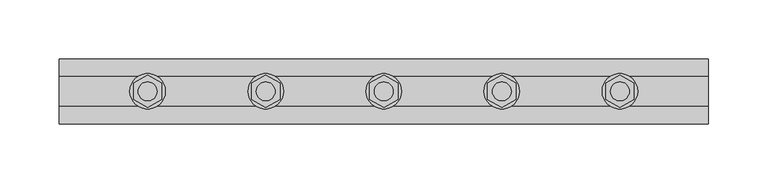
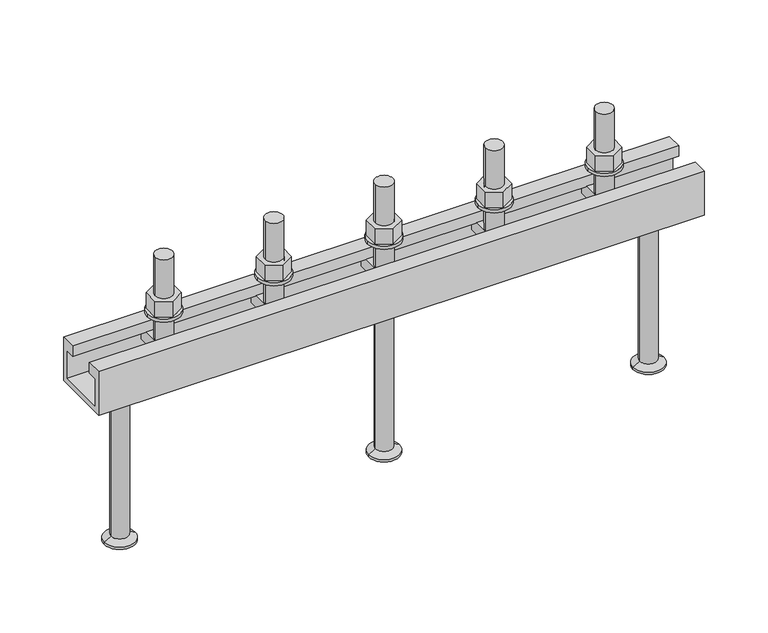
"""IFC4 building model written with IfcOpenShell, lengths in millimetres: fastener geometry, JTA-W JORDAHL® AnchorChannels : JTA-W L=550 mm."""

from ifc_helpers import new_model, si_unit, point, frame, frame_2d, origin, place, context, project, spatial, polyline, circle_curve, trimmed, segment, composite_curve, outline, extrude, source, transform, mapped, element, save
from ifc_brep_helpers import plane_surface, cylinder_surface, revolved_surface, advanced_brep


def fastener_0ec726aa(model_context):
    return source(origin(), model_context, "Body", "SolidModel", [
        extrude(outline(polyline([(375.0, -13.8564065), (363.0, -6.9282032), (363.0, 6.9282032), (375.0, 13.8564065), (387.0, 6.9282032), (387.0, -6.9282032), (375.0, -13.8564065)]), holes=[composite_curve([segment(trimmed(circle_curve(frame_2d((375.0, 0.0)), 8.0), [point((367.0, 0.0))], [point((383.0, 0.0))], True, "CARTESIAN"), True, "CONTINUOUS"), segment(trimmed(circle_curve(frame_2d((375.0, 0.0)), 8.0), [point((383.0, 0.0))], [point((367.0, 0.0))], True, "CARTESIAN"), True, "CONTINUOUS")], self_intersect=False)]), frame((0.0, 0.0, 18.0), z_axis=(0.0, 0.0, 1.0), x_axis=(1.0, 0.0, 0.0)), (0.0, 0.0, 1.0), 14.8),
        extrude(outline(composite_curve([segment(trimmed(circle_curve(frame_2d((375.0, 0.0)), 15.0), [point((360.0, 0.0))], [point((390.0, 0.0))], False, "CARTESIAN"), True, "CONTINUOUS"), segment(trimmed(circle_curve(frame_2d((375.0, 0.0)), 15.0), [point((390.0, 0.0))], [point((360.0, 0.0))], False, "CARTESIAN"), True, "CONTINUOUS")], self_intersect=False), holes=[composite_curve([segment(trimmed(circle_curve(frame_2d((375.0, 0.0)), 8.5), [point((366.5, 0.0))], [point((383.5, 0.0))], True, "CARTESIAN"), True, "CONTINUOUS"), segment(trimmed(circle_curve(frame_2d((375.0, 0.0)), 8.5), [point((383.5, 0.0))], [point((366.5, 0.0))], True, "CARTESIAN"), True, "CONTINUOUS")], self_intersect=False)]), frame((0.0, 0.0, 15.0), z_axis=(0.0, 0.0, 1.0), x_axis=(1.0, 0.0, 0.0)), (0.0, 0.0, 1.0), 3.0),
        extrude(outline(polyline([(275.0, -13.8564065), (263.0, -6.9282032), (263.0, 6.9282032), (275.0, 13.8564065), (287.0, 6.9282032), (287.0, -6.9282032), (275.0, -13.8564065)]), holes=[composite_curve([segment(trimmed(circle_curve(frame_2d((275.0, 0.0)), 8.0), [point((267.0, 0.0))], [point((283.0, 0.0))], True, "CARTESIAN"), True, "CONTINUOUS"), segment(trimmed(circle_curve(frame_2d((275.0, 0.0)), 8.0), [point((283.0, 0.0))], [point((267.0, 0.0))], True, "CARTESIAN"), True, "CONTINUOUS")], self_intersect=False)]), frame((0.0, 0.0, 18.0), z_axis=(0.0, 0.0, 1.0), x_axis=(1.0, 0.0, 0.0)), (0.0, 0.0, 1.0), 14.8),
        extrude(outline(composite_curve([segment(trimmed(circle_curve(frame_2d((275.0, 0.0)), 15.0), [point((260.0, 0.0))], [point((290.0, 0.0))], False, "CARTESIAN"), True, "CONTINUOUS"), segment(trimmed(circle_curve(frame_2d((275.0, 0.0)), 15.0), [point((290.0, 0.0))], [point((260.0, 0.0))], False, "CARTESIAN"), True, "CONTINUOUS")], self_intersect=False), holes=[composite_curve([segment(trimmed(circle_curve(frame_2d((275.0, 0.0)), 8.5), [point((266.5, 0.0))], [point((283.5, 0.0))], True, "CARTESIAN"), True, "CONTINUOUS"), segment(trimmed(circle_curve(frame_2d((275.0, 0.0)), 8.5), [point((283.5, 0.0))], [point((266.5, 0.0))], True, "CARTESIAN"), True, "CONTINUOUS")], self_intersect=False)]), frame((0.0, 0.0, 15.0), z_axis=(0.0, 0.0, 1.0), x_axis=(1.0, 0.0, 0.0)), (0.0, 0.0, 1.0), 3.0),
        extrude(outline(polyline([(175.0, -13.8564065), (163.0, -6.9282032), (163.0, 6.9282032), (175.0, 13.8564065), (187.0, 6.9282032), (187.0, -6.9282032), (175.0, -13.8564065)]), holes=[composite_curve([segment(trimmed(circle_curve(frame_2d((175.0, 0.0)), 8.0), [point((167.0, 0.0))], [point((183.0, 0.0))], True, "CARTESIAN"), True, "CONTINUOUS"), segment(trimmed(circle_curve(frame_2d((175.0, 0.0)), 8.0), [point((183.0, 0.0))], [point((167.0, 0.0))], True, "CARTESIAN"), True, "CONTINUOUS")], self_intersect=False)]), frame((0.0, 0.0, 18.0), z_axis=(0.0, 0.0, 1.0), x_axis=(1.0, 0.0, 0.0)), (0.0, 0.0, 1.0), 14.8),
        extrude(outline(composite_curve([segment(trimmed(circle_curve(frame_2d((175.0, 0.0)), 15.0), [point((160.0, 0.0))], [point((190.0, 0.0))], False, "CARTESIAN"), True, "CONTINUOUS"), segment(trimmed(circle_curve(frame_2d((175.0, 0.0)), 15.0), [point((190.0, 0.0))], [point((160.0, 0.0))], False, "CARTESIAN"), True, "CONTINUOUS")], self_intersect=False), holes=[composite_curve([segment(trimmed(circle_curve(frame_2d((175.0, 0.0)), 8.5), [point((166.5, 0.0))], [point((183.5, 0.0))], True, "CARTESIAN"), True, "CONTINUOUS"), segment(trimmed(circle_curve(frame_2d((175.0, 0.0)), 8.5), [point((183.5, 0.0))], [point((166.5, 0.0))], True, "CARTESIAN"), True, "CONTINUOUS")], self_intersect=False)]), frame((0.0, 0.0, 15.0), z_axis=(0.0, 0.0, 1.0), x_axis=(1.0, 0.0, 0.0)), (0.0, 0.0, 1.0), 3.0),
        advanced_brep(
        [(383.5, -20.7, -10.0), (383.5, -20.7, -21.0), (383.5, 20.7, -21.0), (383.5, 20.7, -10.0), (366.5, -20.7, -10.0), (366.5, 20.7, -10.0), (366.5, 20.7, -21.0), (366.5, -20.7, -21.0), (383.0, 0.0, -10.0), (367.0, 0.0, -10.0), (367.0, 0.0, 70.0), (383.0, 0.0, 70.0)],
        [
            (0, 1),
            (1, 2),
            (2, 3),
            (3, 0),
            (4, 5),
            (5, 6),
            (6, 7),
            (7, 4),
            (3, 5),
            (4, 0),
            (8, 9, circle_curve(frame((375.0, 0.0, -10.0), z_axis=(0.0, 0.0, -1.0), x_axis=(1.0, 0.0, 0.0)), 8.0)),
            (9, 8, circle_curve(frame((375.0, 0.0, -10.0), z_axis=(0.0, 0.0, -1.0), x_axis=(1.0, 0.0, 0.0)), 8.0)),
            (2, 6),
            (1, 7),
            (10, 11, circle_curve(frame((375.0, 0.0, 70.0), z_axis=(0.0, 0.0, 1.0), x_axis=(1.0, 0.0, 0.0)), 8.0)),
            (11, 10, circle_curve(frame((375.0, 0.0, 70.0), z_axis=(0.0, 0.0, 1.0), x_axis=(1.0, 0.0, 0.0)), 8.0)),
            (11, 8),
            (9, 10),
        ],
        [
            plane_surface(frame((383.5, 20.7, -10.0), z_axis=(1.0, 0.0, 0.0), x_axis=(0.0, 1.0, 0.0))),
            plane_surface(frame((366.5, 20.7, -10.0), z_axis=(-1.0, 0.0, 0.0), x_axis=(0.0, -1.0, 0.0))),
            plane_surface(frame((383.5, -20.7, -10.0), z_axis=(0.0, 0.0, 1.0), x_axis=(-1.0, 0.0, 0.0))),
            plane_surface(frame((383.5, 20.7, -10.0), z_axis=(0.0, 1.0, 0.0), x_axis=(-1.0, 0.0, 0.0))),
            plane_surface(frame((383.5, 20.7, -21.0), z_axis=(0.0, 0.0, -1.0), x_axis=(-1.0, 0.0, 0.0))),
            plane_surface(frame((383.5, -20.7, -21.0), z_axis=(0.0, -1.0, 0.0), x_axis=(-1.0, 0.0, 0.0))),
            plane_surface(frame((383.0, 0.0, 70.0), z_axis=(0.0, 0.0, 1.0), x_axis=(0.0, -1.0, 0.0))),
            cylinder_surface(frame((375.0, 0.0, -10.0), z_axis=(0.0, 0.0, 1.0), x_axis=(1.0, 0.0, 0.0)), 8.0),
        ],
        [
            (0, [[1, 2, 3, 4]]),
            (1, [[5, 6, 7, 8]]),
            (2, [[9, -5, 10, -4], [11, 12]]),
            (3, [[13, -6, -9, -3]]),
            (4, [[14, -7, -13, -2]]),
            (5, [[-10, -8, -14, -1]]),
            (6, [[15, 16]]),
            (7, [[17, -12, 18, -16]]),
            (7, [[-18, -11, -17, -15]]),
        ],
    ),
        advanced_brep(
        [(283.5, -20.7, -10.0), (283.5, -20.7, -21.0), (283.5, 20.7, -21.0), (283.5, 20.7, -10.0), (266.5, -20.7, -10.0), (266.5, 20.7, -10.0), (266.5, 20.7, -21.0), (266.5, -20.7, -21.0), (283.0, 0.0, -10.0), (267.0, 0.0, -10.0), (267.0, 0.0, 70.0), (283.0, 0.0, 70.0)],
        [
            (0, 1),
            (1, 2),
            (2, 3),
            (3, 0),
            (4, 5),
            (5, 6),
            (6, 7),
            (7, 4),
            (3, 5),
            (4, 0),
            (8, 9, circle_curve(frame((275.0, 0.0, -10.0), z_axis=(0.0, 0.0, -1.0), x_axis=(1.0, 0.0, 0.0)), 8.0)),
            (9, 8, circle_curve(frame((275.0, 0.0, -10.0), z_axis=(0.0, 0.0, -1.0), x_axis=(1.0, 0.0, 0.0)), 8.0)),
            (2, 6),
            (1, 7),
            (10, 11, circle_curve(frame((275.0, 0.0, 70.0), z_axis=(0.0, 0.0, 1.0), x_axis=(1.0, 0.0, 0.0)), 8.0)),
            (11, 10, circle_curve(frame((275.0, 0.0, 70.0), z_axis=(0.0, 0.0, 1.0), x_axis=(1.0, 0.0, 0.0)), 8.0)),
            (11, 8),
            (9, 10),
        ],
        [
            plane_surface(frame((283.5, 20.7, -10.0), z_axis=(1.0, 0.0, 0.0), x_axis=(0.0, 1.0, 0.0))),
            plane_surface(frame((266.5, 20.7, -10.0), z_axis=(-1.0, 0.0, 0.0), x_axis=(0.0, -1.0, 0.0))),
            plane_surface(frame((283.5, -20.7, -10.0), z_axis=(0.0, 0.0, 1.0), x_axis=(-1.0, 0.0, 0.0))),
            plane_surface(frame((283.5, 20.7, -10.0), z_axis=(0.0, 1.0, 0.0), x_axis=(-1.0, 0.0, 0.0))),
            plane_surface(frame((283.5, 20.7, -21.0), z_axis=(0.0, 0.0, -1.0), x_axis=(-1.0, 0.0, 0.0))),
            plane_surface(frame((283.5, -20.7, -21.0), z_axis=(0.0, -1.0, 0.0), x_axis=(-1.0, 0.0, 0.0))),
            plane_surface(frame((283.0, 0.0, 70.0), z_axis=(0.0, 0.0, 1.0), x_axis=(0.0, -1.0, 0.0))),
            cylinder_surface(frame((275.0, 0.0, -10.0), z_axis=(0.0, 0.0, 1.0), x_axis=(1.0, 0.0, 0.0)), 8.0),
        ],
        [
            (0, [[1, 2, 3, 4]]),
            (1, [[5, 6, 7, 8]]),
            (2, [[9, -5, 10, -4], [11, 12]]),
            (3, [[13, -6, -9, -3]]),
            (4, [[14, -7, -13, -2]]),
            (5, [[-10, -8, -14, -1]]),
            (6, [[15, 16]]),
            (7, [[17, -12, 18, -16]]),
            (7, [[-18, -11, -17, -15]]),
        ],
    ),
        advanced_brep(
        [(183.5, -20.7, -10.0), (183.5, -20.7, -21.0), (183.5, 20.7, -21.0), (183.5, 20.7, -10.0), (166.5, -20.7, -10.0), (166.5, 20.7, -10.0), (166.5, 20.7, -21.0), (166.5, -20.7, -21.0), (183.0, 0.0, -10.0), (167.0, 0.0, -10.0), (167.0, 0.0, 70.0), (183.0, 0.0, 70.0)],
        [
            (0, 1),
            (1, 2),
            (2, 3),
            (3, 0),
            (4, 5),
            (5, 6),
            (6, 7),
            (7, 4),
            (3, 5),
            (4, 0),
            (8, 9, circle_curve(frame((175.0, 0.0, -10.0), z_axis=(0.0, 0.0, -1.0), x_axis=(1.0, 0.0, 0.0)), 8.0)),
            (9, 8, circle_curve(frame((175.0, 0.0, -10.0), z_axis=(0.0, 0.0, -1.0), x_axis=(1.0, 0.0, 0.0)), 8.0)),
            (2, 6),
            (1, 7),
            (10, 11, circle_curve(frame((175.0, 0.0, 70.0), z_axis=(0.0, 0.0, 1.0), x_axis=(1.0, 0.0, 0.0)), 8.0)),
            (11, 10, circle_curve(frame((175.0, 0.0, 70.0), z_axis=(0.0, 0.0, 1.0), x_axis=(1.0, 0.0, 0.0)), 8.0)),
            (11, 8),
            (9, 10),
        ],
        [
            plane_surface(frame((183.5, 20.7, -10.0), z_axis=(1.0, 0.0, 0.0), x_axis=(0.0, 1.0, 0.0))),
            plane_surface(frame((166.5, 20.7, -10.0), z_axis=(-1.0, 0.0, 0.0), x_axis=(0.0, -1.0, 0.0))),
            plane_surface(frame((183.5, -20.7, -10.0), z_axis=(0.0, 0.0, 1.0), x_axis=(-1.0, 0.0, 0.0))),
            plane_surface(frame((183.5, 20.7, -10.0), z_axis=(0.0, 1.0, 0.0), x_axis=(-1.0, 0.0, 0.0))),
            plane_surface(frame((183.5, 20.7, -21.0), z_axis=(0.0, 0.0, -1.0), x_axis=(-1.0, 0.0, 0.0))),
            plane_surface(frame((183.5, -20.7, -21.0), z_axis=(0.0, -1.0, 0.0), x_axis=(-1.0, 0.0, 0.0))),
            plane_surface(frame((183.0, 0.0, 70.0), z_axis=(0.0, 0.0, 1.0), x_axis=(0.0, -1.0, 0.0))),
            cylinder_surface(frame((175.0, 0.0, -10.0), z_axis=(0.0, 0.0, 1.0), x_axis=(1.0, 0.0, 0.0)), 8.0),
        ],
        [
            (0, [[1, 2, 3, 4]]),
            (1, [[5, 6, 7, 8]]),
            (2, [[9, -5, 10, -4], [11, 12]]),
            (3, [[13, -6, -9, -3]]),
            (4, [[14, -7, -13, -2]]),
            (5, [[-10, -8, -14, -1]]),
            (6, [[15, 16]]),
            (7, [[17, -12, 18, -16]]),
            (7, [[-18, -11, -17, -15]]),
        ],
    ),
        advanced_brep(
        [(275.0, 0.0, -42.0), (252.0, 0.0, -42.0), (298.0, 0.0, -42.0), (261.0, 0.0, -190.0), (275.0, 0.0, -190.0), (289.0, 0.0, -190.0), (261.0, 0.0, -188.0), (289.0, 0.0, -188.0), (267.2, 0.0, -184.4204283), (282.8, 0.0, -184.4204283), (267.2, 0.0, -46.0), (282.8, 0.0, -46.0)],
        [
            (0, 1),
            (1, 2, circle_curve(frame((275.0, 0.0, -42.0), z_axis=(0.0, 0.0, 1.0), x_axis=(1.0, 0.0, 0.0)), 23.0)),
            (2, 0),
            (2, 1, circle_curve(frame((275.0, 0.0, -42.0), z_axis=(0.0, 0.0, 1.0), x_axis=(1.0, 0.0, 0.0)), 23.0)),
            (3, 4),
            (4, 5),
            (5, 3, circle_curve(frame((275.0, 0.0, -190.0), z_axis=(0.0, 0.0, -1.0), x_axis=(1.0, 0.0, 0.0)), 14.0)),
            (3, 5, circle_curve(frame((275.0, 0.0, -190.0), z_axis=(0.0, 0.0, -1.0), x_axis=(1.0, 0.0, 0.0)), 14.0)),
            (6, 3),
            (5, 7),
            (7, 6, circle_curve(frame((275.0, 0.0, -188.0), z_axis=(0.0, 0.0, -1.0), x_axis=(1.0, 0.0, 0.0)), 14.0)),
            (6, 7, circle_curve(frame((275.0, 0.0, -188.0), z_axis=(0.0, 0.0, -1.0), x_axis=(1.0, 0.0, 0.0)), 14.0)),
            (8, 6),
            (7, 9),
            (9, 8, circle_curve(frame((275.0, 0.0, -184.4204283), z_axis=(0.0, 0.0, -1.0), x_axis=(1.0, 0.0, 0.0)), 7.8)),
            (8, 9, circle_curve(frame((275.0, 0.0, -184.4204283), z_axis=(0.0, 0.0, -1.0), x_axis=(1.0, 0.0, 0.0)), 7.8)),
            (10, 8),
            (9, 11),
            (11, 10, circle_curve(frame((275.0, 0.0, -46.0), z_axis=(0.0, 0.0, -1.0), x_axis=(1.0, 0.0, 0.0)), 7.8)),
            (10, 11, circle_curve(frame((275.0, 0.0, -46.0), z_axis=(0.0, 0.0, -1.0), x_axis=(1.0, 0.0, 0.0)), 7.8)),
            (1, 10),
            (11, 2),
        ],
        [
            plane_surface(frame((275.0, 0.0, -42.0), z_axis=(0.0, 0.0, 1.0), x_axis=(1.0, 0.0, 0.0))),
            plane_surface(frame((275.0, 0.0, -190.0), z_axis=(0.0, 0.0, -1.0), x_axis=(1.0, 0.0, 0.0))),
            cylinder_surface(frame((275.0, 0.0, 2362.3150031), z_axis=(0.0, 0.0, 1.0), x_axis=(1.0, 0.0, 0.0)), 14.0),
            revolved_surface(polyline([(289.0, 0.0, -188.0), (282.8, 0.0, -184.4204283)]), (275.0, 0.0, 2362.3150031), (0.0, 0.0, 1.0)),
            cylinder_surface(frame((275.0, 0.0, 2362.3150031), z_axis=(0.0, 0.0, 1.0), x_axis=(1.0, 0.0, 0.0)), 7.8),
            revolved_surface(polyline([(282.8, 0.0, -46.0), (298.0, 0.0, -42.0)]), (275.0, 0.0, 2362.3150031), (0.0, 0.0, 1.0)),
        ],
        [
            (0, [[1, 2, 3]]),
            (0, [[-3, 4, -1]]),
            (1, [[5, 6, 7]]),
            (1, [[-6, -5, 8]]),
            (2, [[9, -7, 10, 11]]),
            (2, [[-10, -8, -9, 12]]),
            (3, [[13, -11, 14, 15]]),
            (3, [[-14, -12, -13, 16]]),
            (4, [[17, -15, 18, 19]]),
            (4, [[-18, -16, -17, 20]]),
            (5, [[21, -19, 22, -2]]),
            (5, [[-22, -20, -21, -4]]),
        ],
    ),
        extrude(outline(polyline([(475.0, -13.8564065), (463.0, -6.9282032), (463.0, 6.9282032), (475.0, 13.8564065), (487.0, 6.9282032), (487.0, -6.9282032), (475.0, -13.8564065)]), holes=[composite_curve([segment(trimmed(circle_curve(frame_2d((475.0, 0.0)), 8.0), [point((467.0, 0.0))], [point((483.0, 0.0))], True, "CARTESIAN"), True, "CONTINUOUS"), segment(trimmed(circle_curve(frame_2d((475.0, 0.0)), 8.0), [point((483.0, 0.0))], [point((467.0, 0.0))], True, "CARTESIAN"), True, "CONTINUOUS")], self_intersect=False)]), frame((0.0, 0.0, 18.0), z_axis=(0.0, 0.0, 1.0), x_axis=(1.0, 0.0, 0.0)), (0.0, 0.0, 1.0), 14.8),
        extrude(outline(composite_curve([segment(trimmed(circle_curve(frame_2d((475.0, 0.0)), 15.0), [point((460.0, 0.0))], [point((490.0, 0.0))], False, "CARTESIAN"), True, "CONTINUOUS"), segment(trimmed(circle_curve(frame_2d((475.0, 0.0)), 15.0), [point((490.0, 0.0))], [point((460.0, 0.0))], False, "CARTESIAN"), True, "CONTINUOUS")], self_intersect=False), holes=[composite_curve([segment(trimmed(circle_curve(frame_2d((475.0, 0.0)), 8.5), [point((466.5, 0.0))], [point((483.5, 0.0))], True, "CARTESIAN"), True, "CONTINUOUS"), segment(trimmed(circle_curve(frame_2d((475.0, 0.0)), 8.5), [point((483.5, 0.0))], [point((466.5, 0.0))], True, "CARTESIAN"), True, "CONTINUOUS")], self_intersect=False)]), frame((0.0, 0.0, 15.0), z_axis=(0.0, 0.0, 1.0), x_axis=(1.0, 0.0, 0.0)), (0.0, 0.0, 1.0), 3.0),
        extrude(outline(polyline([(75.0, -13.8564065), (63.0, -6.9282032), (63.0, 6.9282032), (75.0, 13.8564065), (87.0, 6.9282032), (87.0, -6.9282032), (75.0, -13.8564065)]), holes=[composite_curve([segment(trimmed(circle_curve(frame_2d((75.0, 0.0)), 8.0), [point((67.0, 0.0))], [point((83.0, 0.0))], True, "CARTESIAN"), True, "CONTINUOUS"), segment(trimmed(circle_curve(frame_2d((75.0, 0.0)), 8.0), [point((83.0, 0.0))], [point((67.0, 0.0))], True, "CARTESIAN"), True, "CONTINUOUS")], self_intersect=False)]), frame((0.0, 0.0, 18.0), z_axis=(0.0, 0.0, 1.0), x_axis=(1.0, 0.0, 0.0)), (0.0, 0.0, 1.0), 14.8),
        extrude(outline(composite_curve([segment(trimmed(circle_curve(frame_2d((75.0, 0.0)), 15.0), [point((60.0, 0.0))], [point((90.0, 0.0))], False, "CARTESIAN"), True, "CONTINUOUS"), segment(trimmed(circle_curve(frame_2d((75.0, 0.0)), 15.0), [point((90.0, 0.0))], [point((60.0, 0.0))], False, "CARTESIAN"), True, "CONTINUOUS")], self_intersect=False), holes=[composite_curve([segment(trimmed(circle_curve(frame_2d((75.0, 0.0)), 8.5), [point((66.5, 0.0))], [point((83.5, 0.0))], True, "CARTESIAN"), True, "CONTINUOUS"), segment(trimmed(circle_curve(frame_2d((75.0, 0.0)), 8.5), [point((83.5, 0.0))], [point((66.5, 0.0))], True, "CARTESIAN"), True, "CONTINUOUS")], self_intersect=False)]), frame((0.0, 0.0, 15.0), z_axis=(0.0, 0.0, 1.0), x_axis=(1.0, 0.0, 0.0)), (0.0, 0.0, 1.0), 3.0),
        advanced_brep(
        [(483.5, -20.7, -10.0), (483.5, -20.7, -21.0), (483.5, 20.7, -21.0), (483.5, 20.7, -10.0), (466.5, -20.7, -10.0), (466.5, 20.7, -10.0), (466.5, 20.7, -21.0), (466.5, -20.7, -21.0), (483.0, 0.0, -10.0), (467.0, 0.0, -10.0), (467.0, 0.0, 70.0), (483.0, 0.0, 70.0)],
        [
            (0, 1),
            (1, 2),
            (2, 3),
            (3, 0),
            (4, 5),
            (5, 6),
            (6, 7),
            (7, 4),
            (3, 5),
            (4, 0),
            (8, 9, circle_curve(frame((475.0, 0.0, -10.0), z_axis=(0.0, 0.0, -1.0), x_axis=(1.0, 0.0, 0.0)), 8.0)),
            (9, 8, circle_curve(frame((475.0, 0.0, -10.0), z_axis=(0.0, 0.0, -1.0), x_axis=(1.0, 0.0, 0.0)), 8.0)),
            (2, 6),
            (1, 7),
            (10, 11, circle_curve(frame((475.0, 0.0, 70.0), z_axis=(0.0, 0.0, 1.0), x_axis=(1.0, 0.0, 0.0)), 8.0)),
            (11, 10, circle_curve(frame((475.0, 0.0, 70.0), z_axis=(0.0, 0.0, 1.0), x_axis=(1.0, 0.0, 0.0)), 8.0)),
            (11, 8),
            (9, 10),
        ],
        [
            plane_surface(frame((483.5, 20.7, -10.0), z_axis=(1.0, 0.0, 0.0), x_axis=(0.0, 1.0, 0.0))),
            plane_surface(frame((466.5, 20.7, -10.0), z_axis=(-1.0, 0.0, 0.0), x_axis=(0.0, -1.0, 0.0))),
            plane_surface(frame((483.5, -20.7, -10.0), z_axis=(0.0, 0.0, 1.0), x_axis=(-1.0, 0.0, 0.0))),
            plane_surface(frame((483.5, 20.7, -10.0), z_axis=(0.0, 1.0, 0.0), x_axis=(-1.0, 0.0, 0.0))),
            plane_surface(frame((483.5, 20.7, -21.0), z_axis=(0.0, 0.0, -1.0), x_axis=(-1.0, 0.0, 0.0))),
            plane_surface(frame((483.5, -20.7, -21.0), z_axis=(0.0, -1.0, 0.0), x_axis=(-1.0, 0.0, 0.0))),
            plane_surface(frame((483.0, 0.0, 70.0), z_axis=(0.0, 0.0, 1.0), x_axis=(0.0, -1.0, 0.0))),
            cylinder_surface(frame((475.0, 0.0, -10.0), z_axis=(0.0, 0.0, 1.0), x_axis=(1.0, 0.0, 0.0)), 8.0),
        ],
        [
            (0, [[1, 2, 3, 4]]),
            (1, [[5, 6, 7, 8]]),
            (2, [[9, -5, 10, -4], [11, 12]]),
            (3, [[13, -6, -9, -3]]),
            (4, [[14, -7, -13, -2]]),
            (5, [[-10, -8, -14, -1]]),
            (6, [[15, 16]]),
            (7, [[17, -12, 18, -16]]),
            (7, [[-18, -11, -17, -15]]),
        ],
    ),
        advanced_brep(
        [(83.5, -20.7, -10.0), (83.5, -20.7, -21.0), (83.5, 20.7, -21.0), (83.5, 20.7, -10.0), (66.5, -20.7, -10.0), (66.5, 20.7, -10.0), (66.5, 20.7, -21.0), (66.5, -20.7, -21.0), (83.0, 0.0, -10.0), (67.0, 0.0, -10.0), (67.0, 0.0, 70.0), (83.0, 0.0, 70.0)],
        [
            (0, 1),
            (1, 2),
            (2, 3),
            (3, 0),
            (4, 5),
            (5, 6),
            (6, 7),
            (7, 4),
            (3, 5),
            (4, 0),
            (8, 9, circle_curve(frame((75.0, 0.0, -10.0), z_axis=(0.0, 0.0, -1.0), x_axis=(1.0, 0.0, 0.0)), 8.0)),
            (9, 8, circle_curve(frame((75.0, 0.0, -10.0), z_axis=(0.0, 0.0, -1.0), x_axis=(1.0, 0.0, 0.0)), 8.0)),
            (2, 6),
            (1, 7),
            (10, 11, circle_curve(frame((75.0, 0.0, 70.0), z_axis=(0.0, 0.0, 1.0), x_axis=(1.0, 0.0, 0.0)), 8.0)),
            (11, 10, circle_curve(frame((75.0, 0.0, 70.0), z_axis=(0.0, 0.0, 1.0), x_axis=(1.0, 0.0, 0.0)), 8.0)),
            (11, 8),
            (9, 10),
        ],
        [
            plane_surface(frame((83.5, 20.7, -10.0), z_axis=(1.0, 0.0, 0.0), x_axis=(0.0, 1.0, 0.0))),
            plane_surface(frame((66.5, 20.7, -10.0), z_axis=(-1.0, 0.0, 0.0), x_axis=(0.0, -1.0, 0.0))),
            plane_surface(frame((83.5, -20.7, -10.0), z_axis=(0.0, 0.0, 1.0), x_axis=(-1.0, 0.0, 0.0))),
            plane_surface(frame((83.5, 20.7, -10.0), z_axis=(0.0, 1.0, 0.0), x_axis=(-1.0, 0.0, 0.0))),
            plane_surface(frame((83.5, 20.7, -21.0), z_axis=(0.0, 0.0, -1.0), x_axis=(-1.0, 0.0, 0.0))),
            plane_surface(frame((83.5, -20.7, -21.0), z_axis=(0.0, -1.0, 0.0), x_axis=(-1.0, 0.0, 0.0))),
            plane_surface(frame((83.0, 0.0, 70.0), z_axis=(0.0, 0.0, 1.0), x_axis=(0.0, -1.0, 0.0))),
            cylinder_surface(frame((75.0, 0.0, -10.0), z_axis=(0.0, 0.0, 1.0), x_axis=(1.0, 0.0, 0.0)), 8.0),
        ],
        [
            (0, [[1, 2, 3, 4]]),
            (1, [[5, 6, 7, 8]]),
            (2, [[9, -5, 10, -4], [11, 12]]),
            (3, [[13, -6, -9, -3]]),
            (4, [[14, -7, -13, -2]]),
            (5, [[-10, -8, -14, -1]]),
            (6, [[15, 16]]),
            (7, [[17, -12, 18, -16]]),
            (7, [[-18, -11, -17, -15]]),
        ],
    ),
        advanced_brep(
        [(515.0, 0.0, -42.0), (492.0, 0.0, -42.0), (538.0, 0.0, -42.0), (501.0, 0.0, -190.0), (515.0, 0.0, -190.0), (529.0, 0.0, -190.0), (501.0, 0.0, -188.0), (529.0, 0.0, -188.0), (507.2, 0.0, -184.4204283), (522.8, 0.0, -184.4204283), (507.2, 0.0, -46.0), (522.8, 0.0, -46.0)],
        [
            (0, 1),
            (1, 2, circle_curve(frame((515.0, 0.0, -42.0), z_axis=(0.0, 0.0, 1.0), x_axis=(1.0, 0.0, 0.0)), 23.0)),
            (2, 0),
            (2, 1, circle_curve(frame((515.0, 0.0, -42.0), z_axis=(0.0, 0.0, 1.0), x_axis=(1.0, 0.0, 0.0)), 23.0)),
            (3, 4),
            (4, 5),
            (5, 3, circle_curve(frame((515.0, 0.0, -190.0), z_axis=(0.0, 0.0, -1.0), x_axis=(1.0, 0.0, 0.0)), 14.0)),
            (3, 5, circle_curve(frame((515.0, 0.0, -190.0), z_axis=(0.0, 0.0, -1.0), x_axis=(1.0, 0.0, 0.0)), 14.0)),
            (6, 3),
            (5, 7),
            (7, 6, circle_curve(frame((515.0, 0.0, -188.0), z_axis=(0.0, 0.0, -1.0), x_axis=(1.0, 0.0, 0.0)), 14.0)),
            (6, 7, circle_curve(frame((515.0, 0.0, -188.0), z_axis=(0.0, 0.0, -1.0), x_axis=(1.0, 0.0, 0.0)), 14.0)),
            (8, 6),
            (7, 9),
            (9, 8, circle_curve(frame((515.0, 0.0, -184.4204283), z_axis=(0.0, 0.0, -1.0), x_axis=(1.0, 0.0, 0.0)), 7.8)),
            (8, 9, circle_curve(frame((515.0, 0.0, -184.4204283), z_axis=(0.0, 0.0, -1.0), x_axis=(1.0, 0.0, 0.0)), 7.8)),
            (10, 8),
            (9, 11),
            (11, 10, circle_curve(frame((515.0, 0.0, -46.0), z_axis=(0.0, 0.0, -1.0), x_axis=(1.0, 0.0, 0.0)), 7.8)),
            (10, 11, circle_curve(frame((515.0, 0.0, -46.0), z_axis=(0.0, 0.0, -1.0), x_axis=(1.0, 0.0, 0.0)), 7.8)),
            (1, 10),
            (11, 2),
        ],
        [
            plane_surface(frame((515.0, 0.0, -42.0), z_axis=(0.0, 0.0, 1.0), x_axis=(1.0, 0.0, 0.0))),
            plane_surface(frame((515.0, 0.0, -190.0), z_axis=(0.0, 0.0, -1.0), x_axis=(1.0, 0.0, 0.0))),
            cylinder_surface(frame((515.0, 0.0, 2362.3150031), z_axis=(0.0, 0.0, 1.0), x_axis=(1.0, 0.0, 0.0)), 14.0),
            revolved_surface(polyline([(529.0, 0.0, -188.0), (522.8, 0.0, -184.4204283)]), (515.0, 0.0, 2362.3150031), (0.0, 0.0, 1.0)),
            cylinder_surface(frame((515.0, 0.0, 2362.3150031), z_axis=(0.0, 0.0, 1.0), x_axis=(1.0, 0.0, 0.0)), 7.8),
            revolved_surface(polyline([(522.8, 0.0, -46.0), (538.0, 0.0, -42.0)]), (515.0, 0.0, 2362.3150031), (0.0, 0.0, 1.0)),
        ],
        [
            (0, [[1, 2, 3]]),
            (0, [[-3, 4, -1]]),
            (1, [[5, 6, 7]]),
            (1, [[-6, -5, 8]]),
            (2, [[9, -7, 10, 11]]),
            (2, [[-10, -8, -9, 12]]),
            (3, [[13, -11, 14, 15]]),
            (3, [[-14, -12, -13, 16]]),
            (4, [[17, -15, 18, 19]]),
            (4, [[-18, -16, -17, 20]]),
            (5, [[21, -19, 22, -2]]),
            (5, [[-22, -20, -21, -4]]),
        ],
    ),
        advanced_brep(
        [(35.0, 0.0, -42.0), (12.0, 0.0, -42.0), (58.0, 0.0, -42.0), (21.0, 0.0, -190.0), (35.0, 0.0, -190.0), (49.0, 0.0, -190.0), (21.0, 0.0, -188.0), (49.0, 0.0, -188.0), (27.2, 0.0, -184.4204283), (42.8, 0.0, -184.4204283), (27.2, 0.0, -46.0), (42.8, 0.0, -46.0)],
        [
            (0, 1),
            (1, 2, circle_curve(frame((35.0, 0.0, -42.0), z_axis=(0.0, 0.0, 1.0), x_axis=(1.0, 0.0, 0.0)), 23.0)),
            (2, 0),
            (2, 1, circle_curve(frame((35.0, 0.0, -42.0), z_axis=(0.0, 0.0, 1.0), x_axis=(1.0, 0.0, 0.0)), 23.0)),
            (3, 4),
            (4, 5),
            (5, 3, circle_curve(frame((35.0, 0.0, -190.0), z_axis=(0.0, 0.0, -1.0), x_axis=(1.0, 0.0, 0.0)), 14.0)),
            (3, 5, circle_curve(frame((35.0, 0.0, -190.0), z_axis=(0.0, 0.0, -1.0), x_axis=(1.0, 0.0, 0.0)), 14.0)),
            (6, 3),
            (5, 7),
            (7, 6, circle_curve(frame((35.0, 0.0, -188.0), z_axis=(0.0, 0.0, -1.0), x_axis=(1.0, 0.0, 0.0)), 14.0)),
            (6, 7, circle_curve(frame((35.0, 0.0, -188.0), z_axis=(0.0, 0.0, -1.0), x_axis=(1.0, 0.0, 0.0)), 14.0)),
            (8, 6),
            (7, 9),
            (9, 8, circle_curve(frame((35.0, 0.0, -184.4204283), z_axis=(0.0, 0.0, -1.0), x_axis=(1.0, 0.0, 0.0)), 7.8)),
            (8, 9, circle_curve(frame((35.0, 0.0, -184.4204283), z_axis=(0.0, 0.0, -1.0), x_axis=(1.0, 0.0, 0.0)), 7.8)),
            (10, 8),
            (9, 11),
            (11, 10, circle_curve(frame((35.0, 0.0, -46.0), z_axis=(0.0, 0.0, -1.0), x_axis=(1.0, 0.0, 0.0)), 7.8)),
            (10, 11, circle_curve(frame((35.0, 0.0, -46.0), z_axis=(0.0, 0.0, -1.0), x_axis=(1.0, 0.0, 0.0)), 7.8)),
            (1, 10),
            (11, 2),
        ],
        [
            plane_surface(frame((35.0, 0.0, -42.0), z_axis=(0.0, 0.0, 1.0), x_axis=(1.0, 0.0, 0.0))),
            plane_surface(frame((35.0, 0.0, -190.0), z_axis=(0.0, 0.0, -1.0), x_axis=(1.0, 0.0, 0.0))),
            cylinder_surface(frame((35.0, 0.0, 2362.3150031), z_axis=(0.0, 0.0, 1.0), x_axis=(1.0, 0.0, 0.0)), 14.0),
            revolved_surface(polyline([(49.0, 0.0, -188.0), (42.8, 0.0, -184.4204283)]), (35.0, 0.0, 2362.3150031), (0.0, 0.0, 1.0)),
            cylinder_surface(frame((35.0, 0.0, 2362.3150031), z_axis=(0.0, 0.0, 1.0), x_axis=(1.0, 0.0, 0.0)), 7.8),
            revolved_surface(polyline([(42.8, 0.0, -46.0), (58.0, 0.0, -42.0)]), (35.0, 0.0, 2362.3150031), (0.0, 0.0, 1.0)),
        ],
        [
            (0, [[1, 2, 3]]),
            (0, [[-3, 4, -1]]),
            (1, [[5, 6, 7]]),
            (1, [[-6, -5, 8]]),
            (2, [[9, -7, 10, 11]]),
            (2, [[-10, -8, -9, 12]]),
            (3, [[13, -11, 14, 15]]),
            (3, [[-14, -12, -13, 16]]),
            (4, [[17, -15, 18, 19]]),
            (4, [[-18, -16, -17, 20]]),
            (5, [[21, -19, 22, -2]]),
            (5, [[-22, -20, -21, -4]]),
        ],
    ),
        extrude(outline(polyline([(-27.5, 0.0), (-13.0, 0.0), (-13.0, -10.0), (-22.5, -10.0), (-22.5, -37.0), (22.5, -37.0), (22.5, -10.0), (13.0, -10.0), (13.0, 0.0), (27.5, 0.0), (27.5, -42.0), (-27.5, -42.0), (-27.5, 0.0)])), frame((0.0, 0.0, 0.0), z_axis=(1.0, 0.0, 0.0), x_axis=(0.0, 1.0, 0.0)), (0.0, 0.0, 1.0), 550.0),
    ])


if __name__ == "__main__":
    model = new_model("IFC4")
    model_context = context("Model", 3, world=origin())
    ifc_project = project(units=[si_unit("LENGTHUNIT", "METRE", prefix="MILLI")], contexts=[model_context])
    site = spatial("IfcSite", under=ifc_project)
    building = spatial("IfcBuilding", under=site)
    placement = place(None, origin())
    fastener_shape = fastener_0ec726aa(model_context)
    element("IfcFastener", 1, ObjectType="JTA-W JORDAHL® AnchorChannels : JTA-W L=550 mm", at=placement, inside=building, context=model_context, shape_type="MappedRepresentation", body=[
        mapped(fastener_shape, transform((0.0, 0.0, 0.0), x_axis=(1.0, 0.0, 0.0), y_axis=(0.0, 1.0, 0.0), z_axis=(0.0, 0.0, 1.0))),
    ])
    save(model, "model.ifc")
